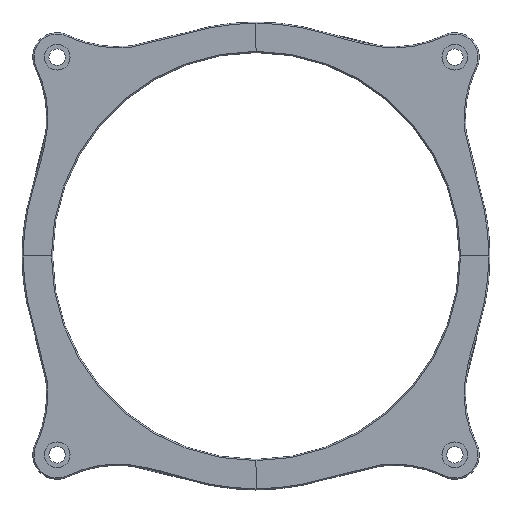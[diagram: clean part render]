
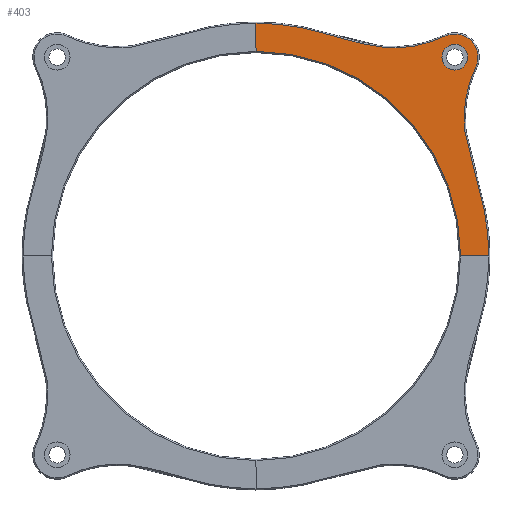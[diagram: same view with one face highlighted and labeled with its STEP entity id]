
A CAD part, top view. The second image highlights one B-rep face of the part: STEP entity #403.
In plain terms, the highlighted planar face has unit normal (0, 0, 1).
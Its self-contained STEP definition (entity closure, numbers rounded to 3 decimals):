
#97 = VERTEX_POINT('',#98);
#98 = CARTESIAN_POINT('',(38.05,0.,1.4));
#106 = VERTEX_POINT('',#107);
#107 = CARTESIAN_POINT('',(36.42,11.016,1.4));
#113 = EDGE_CURVE('',#97,#106,#114,.T.);
#114 = CIRCLE('',#115,38.05);
#115 = AXIS2_PLACEMENT_3D('',#116,#117,#118);
#116 = CARTESIAN_POINT('',(0.,0.,1.4));
#117 = DIRECTION('',(0.,0.,1.));
#118 = DIRECTION('',(1.,0.,0.));
#403 = ADVANCED_FACE('',(#404,#499),#510,.T.);
#404 = FACE_BOUND('',#405,.T.);
#405 = EDGE_LOOP('',(#406,#414,#415,#436,#445,#454,#475,#484,#492));
#406 = ORIENTED_EDGE('',*,*,#407,.T.);
#407 = EDGE_CURVE('',#408,#97,#410,.T.);
#408 = VERTEX_POINT('',#409);
#409 = CARTESIAN_POINT('',(33.45,0.,1.4));
#410 = LINE('',#411,#412);
#411 = CARTESIAN_POINT('',(33.25,0.,1.4));
#412 = VECTOR('',#413,1.);
#413 = DIRECTION('',(1.,0.,0.));
#414 = ORIENTED_EDGE('',*,*,#113,.T.);
#415 = ORIENTED_EDGE('',*,*,#416,.T.);
#416 = EDGE_CURVE('',#106,#417,#419,.T.);
#417 = VERTEX_POINT('',#418);
#418 = CARTESIAN_POINT('',(35.94,30.886,1.4));
#419 = B_SPLINE_CURVE_WITH_KNOTS('',8,(#420,#421,#422,#423,#424,#425,
    #426,#427,#428,#429,#430,#431,#432,#433,#434,#435),.UNSPECIFIED.,.F.
  ,.F.,(9,7,9),(11.235,21.385,31.536),
  .UNSPECIFIED.);
#420 = CARTESIAN_POINT('',(36.42,11.016,1.4));
#421 = CARTESIAN_POINT('',(35.544,13.914,1.4));
#422 = CARTESIAN_POINT('',(34.9,16.249,1.4));
#423 = CARTESIAN_POINT('',(34.454,18.112,1.4));
#424 = CARTESIAN_POINT('',(34.174,19.598,1.4));
#425 = CARTESIAN_POINT('',(34.025,20.796,1.4));
#426 = CARTESIAN_POINT('',(33.979,21.805,1.4));
#427 = CARTESIAN_POINT('',(34.,22.703,1.4));
#428 = CARTESIAN_POINT('',(34.108,24.459,1.4));
#429 = CARTESIAN_POINT('',(34.195,25.324,1.4));
#430 = CARTESIAN_POINT('',(34.325,26.189,1.4));
#431 = CARTESIAN_POINT('',(34.507,27.064,1.4));
#432 = CARTESIAN_POINT('',(34.751,27.96,1.4));
#433 = CARTESIAN_POINT('',(35.066,28.888,1.4));
#434 = CARTESIAN_POINT('',(35.459,29.86,1.4));
#435 = CARTESIAN_POINT('',(35.94,30.886,1.4));
#436 = ORIENTED_EDGE('',*,*,#437,.T.);
#437 = EDGE_CURVE('',#417,#438,#440,.T.);
#438 = VERTEX_POINT('',#439);
#439 = CARTESIAN_POINT('',(35.187,35.187,1.4));
#440 = CIRCLE('',#441,3.8);
#441 = AXIS2_PLACEMENT_3D('',#442,#443,#444);
#442 = CARTESIAN_POINT('',(32.5,32.5,1.4));
#443 = DIRECTION('',(-0.,0.,1.));
#444 = DIRECTION('',(0.905,-0.425,0.));
#445 = ORIENTED_EDGE('',*,*,#446,.T.);
#446 = EDGE_CURVE('',#438,#447,#449,.T.);
#447 = VERTEX_POINT('',#448);
#448 = CARTESIAN_POINT('',(30.886,35.94,1.4));
#449 = CIRCLE('',#450,3.8);
#450 = AXIS2_PLACEMENT_3D('',#451,#452,#453);
#451 = CARTESIAN_POINT('',(32.5,32.5,1.4));
#452 = DIRECTION('',(0.,-0.,1.));
#453 = DIRECTION('',(0.707,0.707,0.));
#454 = ORIENTED_EDGE('',*,*,#455,.T.);
#455 = EDGE_CURVE('',#447,#456,#458,.T.);
#456 = VERTEX_POINT('',#457);
#457 = CARTESIAN_POINT('',(11.016,36.42,1.4));
#458 = B_SPLINE_CURVE_WITH_KNOTS('',8,(#459,#460,#461,#462,#463,#464,
    #465,#466,#467,#468,#469,#470,#471,#472,#473,#474),.UNSPECIFIED.,.F.
  ,.F.,(9,7,9),(41.328,51.478,61.629),
  .UNSPECIFIED.);
#459 = CARTESIAN_POINT('',(30.886,35.94,1.4));
#460 = CARTESIAN_POINT('',(29.86,35.459,1.4));
#461 = CARTESIAN_POINT('',(28.888,35.066,1.4));
#462 = CARTESIAN_POINT('',(27.96,34.751,1.4));
#463 = CARTESIAN_POINT('',(27.064,34.507,1.4));
#464 = CARTESIAN_POINT('',(26.189,34.325,1.4));
#465 = CARTESIAN_POINT('',(25.324,34.195,1.4));
#466 = CARTESIAN_POINT('',(24.459,34.108,1.4));
#467 = CARTESIAN_POINT('',(22.703,34.,1.4));
#468 = CARTESIAN_POINT('',(21.805,33.979,1.4));
#469 = CARTESIAN_POINT('',(20.796,34.025,1.4));
#470 = CARTESIAN_POINT('',(19.598,34.174,1.4));
#471 = CARTESIAN_POINT('',(18.112,34.454,1.4));
#472 = CARTESIAN_POINT('',(16.249,34.9,1.4));
#473 = CARTESIAN_POINT('',(13.914,35.544,1.4));
#474 = CARTESIAN_POINT('',(11.016,36.42,1.4));
#475 = ORIENTED_EDGE('',*,*,#476,.T.);
#476 = EDGE_CURVE('',#456,#477,#479,.T.);
#477 = VERTEX_POINT('',#478);
#478 = CARTESIAN_POINT('',(0.,38.05,1.4));
#479 = CIRCLE('',#480,38.05);
#480 = AXIS2_PLACEMENT_3D('',#481,#482,#483);
#481 = CARTESIAN_POINT('',(0.,0.,1.4));
#482 = DIRECTION('',(0.,-0.,1.));
#483 = DIRECTION('',(0.29,0.957,0.));
#484 = ORIENTED_EDGE('',*,*,#485,.T.);
#485 = EDGE_CURVE('',#477,#486,#488,.T.);
#486 = VERTEX_POINT('',#487);
#487 = CARTESIAN_POINT('',(0.,33.45,1.4));
#488 = LINE('',#489,#490);
#489 = CARTESIAN_POINT('',(0.,38.25,1.4));
#490 = VECTOR('',#491,1.);
#491 = DIRECTION('',(0.,-1.,0.));
#492 = ORIENTED_EDGE('',*,*,#493,.F.);
#493 = EDGE_CURVE('',#408,#486,#494,.T.);
#494 = CIRCLE('',#495,33.45);
#495 = AXIS2_PLACEMENT_3D('',#496,#497,#498);
#496 = CARTESIAN_POINT('',(0.,0.,1.4));
#497 = DIRECTION('',(0.,0.,1.));
#498 = DIRECTION('',(1.,0.,0.));
#499 = FACE_BOUND('',#500,.T.);
#500 = EDGE_LOOP('',(#501));
#501 = ORIENTED_EDGE('',*,*,#502,.T.);
#502 = EDGE_CURVE('',#503,#503,#505,.T.);
#503 = VERTEX_POINT('',#504);
#504 = CARTESIAN_POINT('',(34.6,32.5,1.4));
#505 = CIRCLE('',#506,2.1);
#506 = AXIS2_PLACEMENT_3D('',#507,#508,#509);
#507 = CARTESIAN_POINT('',(32.5,32.5,1.4));
#508 = DIRECTION('',(0.,0.,-1.));
#509 = DIRECTION('',(1.,0.,0.));
#510 = PLANE('',#511);
#511 = AXIS2_PLACEMENT_3D('',#512,#513,#514);
#512 = CARTESIAN_POINT('',(24.283,24.283,1.4));
#513 = DIRECTION('',(0.,0.,1.));
#514 = DIRECTION('',(1.,0.,0.));
